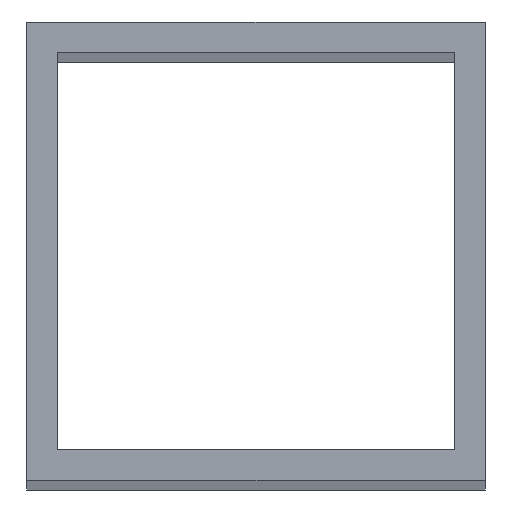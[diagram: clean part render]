
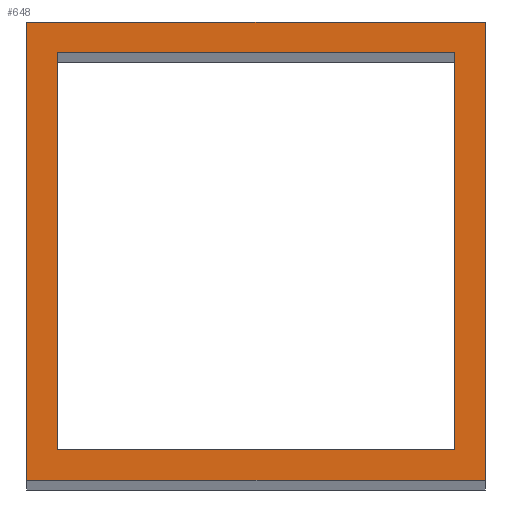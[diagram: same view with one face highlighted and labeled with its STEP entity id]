
A CAD part, top view. The second image highlights one B-rep face of the part: STEP entity #648.
In plain terms, the highlighted planar face has unit normal (0, 0, 1).
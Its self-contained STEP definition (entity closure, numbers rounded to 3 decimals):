
#24 = VERTEX_POINT('',#25);
#25 = CARTESIAN_POINT('',(-30.,-30.,725.));
#32 = PLANE('',#33);
#33 = AXIS2_PLACEMENT_3D('',#34,#35,#36);
#34 = CARTESIAN_POINT('',(-30.,-30.,0.));
#35 = DIRECTION('',(0.,1.,0.));
#36 = DIRECTION('',(1.,0.,0.));
#44 = PLANE('',#45);
#45 = AXIS2_PLACEMENT_3D('',#46,#47,#48);
#46 = CARTESIAN_POINT('',(-30.,30.,0.));
#47 = DIRECTION('',(1.,0.,-0.));
#48 = DIRECTION('',(0.,-1.,0.));
#56 = EDGE_CURVE('',#24,#57,#59,.T.);
#57 = VERTEX_POINT('',#58);
#58 = CARTESIAN_POINT('',(30.,-30.,725.));
#59 = SURFACE_CURVE('',#60,(#64,#71),.PCURVE_S1.);
#60 = LINE('',#61,#62);
#61 = CARTESIAN_POINT('',(-30.,-30.,725.));
#62 = VECTOR('',#63,1.);
#63 = DIRECTION('',(1.,0.,0.));
#64 = PCURVE('',#32,#65);
#65 = DEFINITIONAL_REPRESENTATION('',(#66),#70);
#66 = LINE('',#67,#68);
#67 = CARTESIAN_POINT('',(0.,-725.));
#68 = VECTOR('',#69,1.);
#69 = DIRECTION('',(1.,0.));
#70 = ( GEOMETRIC_REPRESENTATION_CONTEXT(2) 
PARAMETRIC_REPRESENTATION_CONTEXT() REPRESENTATION_CONTEXT('2D SPACE',''
  ) );
#71 = PCURVE('',#72,#77);
#72 = PLANE('',#73);
#73 = AXIS2_PLACEMENT_3D('',#74,#75,#76);
#74 = CARTESIAN_POINT('',(0.,0.,725.));
#75 = DIRECTION('',(0.,0.,1.));
#76 = DIRECTION('',(1.,0.,-0.));
#77 = DEFINITIONAL_REPRESENTATION('',(#78),#82);
#78 = LINE('',#79,#80);
#79 = CARTESIAN_POINT('',(-30.,-30.));
#80 = VECTOR('',#81,1.);
#81 = DIRECTION('',(1.,0.));
#82 = ( GEOMETRIC_REPRESENTATION_CONTEXT(2) 
PARAMETRIC_REPRESENTATION_CONTEXT() REPRESENTATION_CONTEXT('2D SPACE',''
  ) );
#100 = PLANE('',#101);
#101 = AXIS2_PLACEMENT_3D('',#102,#103,#104);
#102 = CARTESIAN_POINT('',(30.,-30.,0.));
#103 = DIRECTION('',(-1.,0.,0.));
#104 = DIRECTION('',(0.,1.,0.));
#142 = EDGE_CURVE('',#57,#143,#145,.T.);
#143 = VERTEX_POINT('',#144);
#144 = CARTESIAN_POINT('',(30.,30.,725.));
#145 = SURFACE_CURVE('',#146,(#150,#157),.PCURVE_S1.);
#146 = LINE('',#147,#148);
#147 = CARTESIAN_POINT('',(30.,-30.,725.));
#148 = VECTOR('',#149,1.);
#149 = DIRECTION('',(0.,1.,0.));
#150 = PCURVE('',#100,#151);
#151 = DEFINITIONAL_REPRESENTATION('',(#152),#156);
#152 = LINE('',#153,#154);
#153 = CARTESIAN_POINT('',(0.,-725.));
#154 = VECTOR('',#155,1.);
#155 = DIRECTION('',(1.,0.));
#156 = ( GEOMETRIC_REPRESENTATION_CONTEXT(2) 
PARAMETRIC_REPRESENTATION_CONTEXT() REPRESENTATION_CONTEXT('2D SPACE',''
  ) );
#157 = PCURVE('',#72,#158);
#158 = DEFINITIONAL_REPRESENTATION('',(#159),#163);
#159 = LINE('',#160,#161);
#160 = CARTESIAN_POINT('',(30.,-30.));
#161 = VECTOR('',#162,1.);
#162 = DIRECTION('',(0.,1.));
#163 = ( GEOMETRIC_REPRESENTATION_CONTEXT(2) 
PARAMETRIC_REPRESENTATION_CONTEXT() REPRESENTATION_CONTEXT('2D SPACE',''
  ) );
#181 = PLANE('',#182);
#182 = AXIS2_PLACEMENT_3D('',#183,#184,#185);
#183 = CARTESIAN_POINT('',(30.,30.,0.));
#184 = DIRECTION('',(0.,-1.,0.));
#185 = DIRECTION('',(-1.,0.,0.));
#218 = EDGE_CURVE('',#143,#219,#221,.T.);
#219 = VERTEX_POINT('',#220);
#220 = CARTESIAN_POINT('',(-30.,30.,725.));
#221 = SURFACE_CURVE('',#222,(#226,#233),.PCURVE_S1.);
#222 = LINE('',#223,#224);
#223 = CARTESIAN_POINT('',(30.,30.,725.));
#224 = VECTOR('',#225,1.);
#225 = DIRECTION('',(-1.,0.,0.));
#226 = PCURVE('',#181,#227);
#227 = DEFINITIONAL_REPRESENTATION('',(#228),#232);
#228 = LINE('',#229,#230);
#229 = CARTESIAN_POINT('',(0.,-725.));
#230 = VECTOR('',#231,1.);
#231 = DIRECTION('',(1.,0.));
#232 = ( GEOMETRIC_REPRESENTATION_CONTEXT(2) 
PARAMETRIC_REPRESENTATION_CONTEXT() REPRESENTATION_CONTEXT('2D SPACE',''
  ) );
#233 = PCURVE('',#72,#234);
#234 = DEFINITIONAL_REPRESENTATION('',(#235),#239);
#235 = LINE('',#236,#237);
#236 = CARTESIAN_POINT('',(30.,30.));
#237 = VECTOR('',#238,1.);
#238 = DIRECTION('',(-1.,0.));
#239 = ( GEOMETRIC_REPRESENTATION_CONTEXT(2) 
PARAMETRIC_REPRESENTATION_CONTEXT() REPRESENTATION_CONTEXT('2D SPACE',''
  ) );
#289 = EDGE_CURVE('',#219,#24,#290,.T.);
#290 = SURFACE_CURVE('',#291,(#295,#302),.PCURVE_S1.);
#291 = LINE('',#292,#293);
#292 = CARTESIAN_POINT('',(-30.,30.,725.));
#293 = VECTOR('',#294,1.);
#294 = DIRECTION('',(0.,-1.,0.));
#295 = PCURVE('',#44,#296);
#296 = DEFINITIONAL_REPRESENTATION('',(#297),#301);
#297 = LINE('',#298,#299);
#298 = CARTESIAN_POINT('',(0.,-725.));
#299 = VECTOR('',#300,1.);
#300 = DIRECTION('',(1.,0.));
#301 = ( GEOMETRIC_REPRESENTATION_CONTEXT(2) 
PARAMETRIC_REPRESENTATION_CONTEXT() REPRESENTATION_CONTEXT('2D SPACE',''
  ) );
#302 = PCURVE('',#72,#303);
#303 = DEFINITIONAL_REPRESENTATION('',(#304),#308);
#304 = LINE('',#305,#306);
#305 = CARTESIAN_POINT('',(-30.,30.));
#306 = VECTOR('',#307,1.);
#307 = DIRECTION('',(0.,-1.));
#308 = ( GEOMETRIC_REPRESENTATION_CONTEXT(2) 
PARAMETRIC_REPRESENTATION_CONTEXT() REPRESENTATION_CONTEXT('2D SPACE',''
  ) );
#338 = VERTEX_POINT('',#339);
#339 = CARTESIAN_POINT('',(-26.,-26.,725.));
#346 = PLANE('',#347);
#347 = AXIS2_PLACEMENT_3D('',#348,#349,#350);
#348 = CARTESIAN_POINT('',(-26.,-26.,0.));
#349 = DIRECTION('',(0.,1.,0.));
#350 = DIRECTION('',(1.,0.,0.));
#358 = PLANE('',#359);
#359 = AXIS2_PLACEMENT_3D('',#360,#361,#362);
#360 = CARTESIAN_POINT('',(-26.,26.,0.));
#361 = DIRECTION('',(1.,0.,-0.));
#362 = DIRECTION('',(0.,-1.,0.));
#370 = EDGE_CURVE('',#338,#371,#373,.T.);
#371 = VERTEX_POINT('',#372);
#372 = CARTESIAN_POINT('',(26.,-26.,725.));
#373 = SURFACE_CURVE('',#374,(#378,#385),.PCURVE_S1.);
#374 = LINE('',#375,#376);
#375 = CARTESIAN_POINT('',(-26.,-26.,725.));
#376 = VECTOR('',#377,1.);
#377 = DIRECTION('',(1.,0.,0.));
#378 = PCURVE('',#346,#379);
#379 = DEFINITIONAL_REPRESENTATION('',(#380),#384);
#380 = LINE('',#381,#382);
#381 = CARTESIAN_POINT('',(0.,-725.));
#382 = VECTOR('',#383,1.);
#383 = DIRECTION('',(1.,0.));
#384 = ( GEOMETRIC_REPRESENTATION_CONTEXT(2) 
PARAMETRIC_REPRESENTATION_CONTEXT() REPRESENTATION_CONTEXT('2D SPACE',''
  ) );
#385 = PCURVE('',#72,#386);
#386 = DEFINITIONAL_REPRESENTATION('',(#387),#391);
#387 = LINE('',#388,#389);
#388 = CARTESIAN_POINT('',(-26.,-26.));
#389 = VECTOR('',#390,1.);
#390 = DIRECTION('',(1.,0.));
#391 = ( GEOMETRIC_REPRESENTATION_CONTEXT(2) 
PARAMETRIC_REPRESENTATION_CONTEXT() REPRESENTATION_CONTEXT('2D SPACE',''
  ) );
#409 = PLANE('',#410);
#410 = AXIS2_PLACEMENT_3D('',#411,#412,#413);
#411 = CARTESIAN_POINT('',(26.,-26.,0.));
#412 = DIRECTION('',(-1.,0.,0.));
#413 = DIRECTION('',(0.,1.,0.));
#446 = EDGE_CURVE('',#371,#447,#449,.T.);
#447 = VERTEX_POINT('',#448);
#448 = CARTESIAN_POINT('',(26.,26.,725.));
#449 = SURFACE_CURVE('',#450,(#454,#461),.PCURVE_S1.);
#450 = LINE('',#451,#452);
#451 = CARTESIAN_POINT('',(26.,-26.,725.));
#452 = VECTOR('',#453,1.);
#453 = DIRECTION('',(0.,1.,0.));
#454 = PCURVE('',#409,#455);
#455 = DEFINITIONAL_REPRESENTATION('',(#456),#460);
#456 = LINE('',#457,#458);
#457 = CARTESIAN_POINT('',(0.,-725.));
#458 = VECTOR('',#459,1.);
#459 = DIRECTION('',(1.,0.));
#460 = ( GEOMETRIC_REPRESENTATION_CONTEXT(2) 
PARAMETRIC_REPRESENTATION_CONTEXT() REPRESENTATION_CONTEXT('2D SPACE',''
  ) );
#461 = PCURVE('',#72,#462);
#462 = DEFINITIONAL_REPRESENTATION('',(#463),#467);
#463 = LINE('',#464,#465);
#464 = CARTESIAN_POINT('',(26.,-26.));
#465 = VECTOR('',#466,1.);
#466 = DIRECTION('',(0.,1.));
#467 = ( GEOMETRIC_REPRESENTATION_CONTEXT(2) 
PARAMETRIC_REPRESENTATION_CONTEXT() REPRESENTATION_CONTEXT('2D SPACE',''
  ) );
#485 = PLANE('',#486);
#486 = AXIS2_PLACEMENT_3D('',#487,#488,#489);
#487 = CARTESIAN_POINT('',(26.,26.,0.));
#488 = DIRECTION('',(0.,-1.,0.));
#489 = DIRECTION('',(-1.,0.,0.));
#522 = EDGE_CURVE('',#447,#523,#525,.T.);
#523 = VERTEX_POINT('',#524);
#524 = CARTESIAN_POINT('',(-26.,26.,725.));
#525 = SURFACE_CURVE('',#526,(#530,#537),.PCURVE_S1.);
#526 = LINE('',#527,#528);
#527 = CARTESIAN_POINT('',(26.,26.,725.));
#528 = VECTOR('',#529,1.);
#529 = DIRECTION('',(-1.,0.,0.));
#530 = PCURVE('',#485,#531);
#531 = DEFINITIONAL_REPRESENTATION('',(#532),#536);
#532 = LINE('',#533,#534);
#533 = CARTESIAN_POINT('',(0.,-725.));
#534 = VECTOR('',#535,1.);
#535 = DIRECTION('',(1.,0.));
#536 = ( GEOMETRIC_REPRESENTATION_CONTEXT(2) 
PARAMETRIC_REPRESENTATION_CONTEXT() REPRESENTATION_CONTEXT('2D SPACE',''
  ) );
#537 = PCURVE('',#72,#538);
#538 = DEFINITIONAL_REPRESENTATION('',(#539),#543);
#539 = LINE('',#540,#541);
#540 = CARTESIAN_POINT('',(26.,26.));
#541 = VECTOR('',#542,1.);
#542 = DIRECTION('',(-1.,0.));
#543 = ( GEOMETRIC_REPRESENTATION_CONTEXT(2) 
PARAMETRIC_REPRESENTATION_CONTEXT() REPRESENTATION_CONTEXT('2D SPACE',''
  ) );
#593 = EDGE_CURVE('',#523,#338,#594,.T.);
#594 = SURFACE_CURVE('',#595,(#599,#606),.PCURVE_S1.);
#595 = LINE('',#596,#597);
#596 = CARTESIAN_POINT('',(-26.,26.,725.));
#597 = VECTOR('',#598,1.);
#598 = DIRECTION('',(0.,-1.,0.));
#599 = PCURVE('',#358,#600);
#600 = DEFINITIONAL_REPRESENTATION('',(#601),#605);
#601 = LINE('',#602,#603);
#602 = CARTESIAN_POINT('',(0.,-725.));
#603 = VECTOR('',#604,1.);
#604 = DIRECTION('',(1.,0.));
#605 = ( GEOMETRIC_REPRESENTATION_CONTEXT(2) 
PARAMETRIC_REPRESENTATION_CONTEXT() REPRESENTATION_CONTEXT('2D SPACE',''
  ) );
#606 = PCURVE('',#72,#607);
#607 = DEFINITIONAL_REPRESENTATION('',(#608),#612);
#608 = LINE('',#609,#610);
#609 = CARTESIAN_POINT('',(-26.,26.));
#610 = VECTOR('',#611,1.);
#611 = DIRECTION('',(0.,-1.));
#612 = ( GEOMETRIC_REPRESENTATION_CONTEXT(2) 
PARAMETRIC_REPRESENTATION_CONTEXT() REPRESENTATION_CONTEXT('2D SPACE',''
  ) );
#648 = ADVANCED_FACE('',(#649,#655),#72,.T.);
#649 = FACE_BOUND('',#650,.T.);
#650 = EDGE_LOOP('',(#651,#652,#653,#654));
#651 = ORIENTED_EDGE('',*,*,#56,.T.);
#652 = ORIENTED_EDGE('',*,*,#142,.T.);
#653 = ORIENTED_EDGE('',*,*,#218,.T.);
#654 = ORIENTED_EDGE('',*,*,#289,.T.);
#655 = FACE_BOUND('',#656,.F.);
#656 = EDGE_LOOP('',(#657,#658,#659,#660));
#657 = ORIENTED_EDGE('',*,*,#370,.T.);
#658 = ORIENTED_EDGE('',*,*,#446,.T.);
#659 = ORIENTED_EDGE('',*,*,#522,.T.);
#660 = ORIENTED_EDGE('',*,*,#593,.T.);
